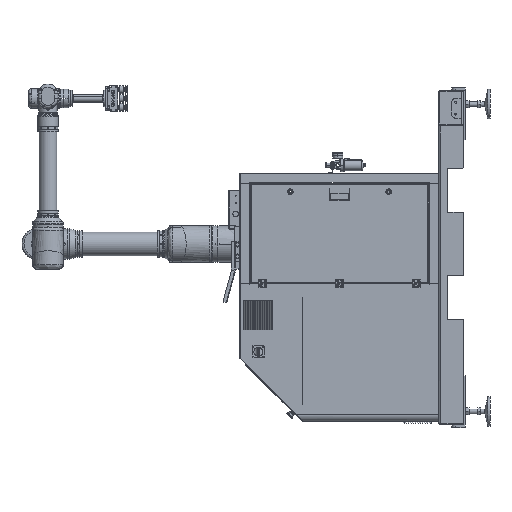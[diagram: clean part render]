
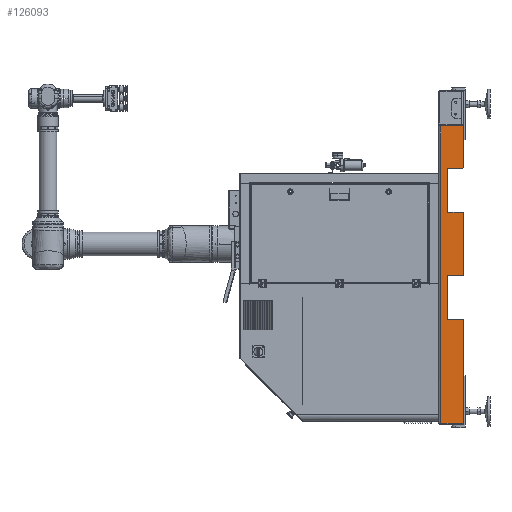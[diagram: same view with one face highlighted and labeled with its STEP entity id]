
A CAD part, left-side view. The second image highlights one B-rep face of the part: STEP entity #126093.
In plain terms, the highlighted planar face has unit normal (-1, 0, 0).
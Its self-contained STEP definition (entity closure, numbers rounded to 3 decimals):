
#3478 = CARTESIAN_POINT ( 'NONE',  ( -400., -120., 0.5 ) ) ;
#3660 = DIRECTION ( 'NONE',  ( 0., -1., 0. ) ) ;
#6713 = ORIENTED_EDGE ( 'NONE', *, *, #145214, .T. ) ;
#7914 = ORIENTED_EDGE ( 'NONE', *, *, #19589, .F. ) ;
#9323 = DIRECTION ( 'NONE',  ( 1., 0., 0. ) ) ;
#9501 = CARTESIAN_POINT ( 'NONE',  ( -400., -125., 760. ) ) ;
#11552 = DIRECTION ( 'NONE',  ( 0., 0., -1. ) ) ;
#13911 = VERTEX_POINT ( 'NONE', #54855 ) ;
#17145 = VERTEX_POINT ( 'NONE', #94762 ) ;
#17235 = CARTESIAN_POINT ( 'NONE',  ( -400., -125., 760. ) ) ;
#19404 = DIRECTION ( 'NONE',  ( 0., 1., 0. ) ) ;
#19589 = EDGE_CURVE ( 'NONE', #35979, #133409, #81288, .T. ) ;
#20459 = VERTEX_POINT ( 'NONE', #128305 ) ;
#20989 = CARTESIAN_POINT ( 'NONE',  ( -400., -10., -754.929 ) ) ;
#22046 = EDGE_CURVE ( 'NONE', #152161, #91561, #143533, .T. ) ;
#22624 = DIRECTION ( 'NONE',  ( 0., -1., 0. ) ) ;
#23389 = EDGE_CURVE ( 'NONE', #133409, #115869, #69696, .T. ) ;
#24079 = ORIENTED_EDGE ( 'NONE', *, *, #55400, .T. ) ;
#25199 = DIRECTION ( 'NONE',  ( -1., 0., 0. ) ) ;
#25457 = CARTESIAN_POINT ( 'NONE',  ( -400., -125., 550.5 ) ) ;
#26300 = LINE ( 'NONE', #110283, #87203 ) ;
#30006 = EDGE_CURVE ( 'NONE', #100650, #135013, #26300, .T. ) ;
#31863 = CARTESIAN_POINT ( 'NONE',  ( -400., 0., 0.5 ) ) ;
#31930 = CARTESIAN_POINT ( 'NONE',  ( -400., -125., 760. ) ) ;
#32616 = LINE ( 'NONE', #90218, #101745 ) ;
#35692 = ORIENTED_EDGE ( 'NONE', *, *, #97825, .F. ) ;
#35815 = CARTESIAN_POINT ( 'NONE',  ( -400., -120., 320.5 ) ) ;
#35979 = VERTEX_POINT ( 'NONE', #129980 ) ;
#36431 = EDGE_CURVE ( 'NONE', #20459, #122509, #67643, .T. ) ;
#36922 = CARTESIAN_POINT ( 'NONE',  ( -400., -120., 315.5 ) ) ;
#37145 = VECTOR ( 'NONE', #88369, 1000. ) ;
#39373 = ORIENTED_EDGE ( 'NONE', *, *, #95042, .F. ) ;
#40446 = CIRCLE ( 'NONE', #56858, 5. ) ;
#41323 = CARTESIAN_POINT ( 'NONE',  ( -400., -45., 545.5 ) ) ;
#43930 = DIRECTION ( 'NONE',  ( 0., -1., 0. ) ) ;
#44425 = DIRECTION ( 'NONE',  ( 0., 0., -1. ) ) ;
#45413 = EDGE_LOOP ( 'NONE', ( #39373, #24079, #35692, #81286, #161678, #62385, #150514, #92129, #109342, #86864, #63992, #167103, #79668, #7914, #6713, #53533 ) ) ;
#48039 = VECTOR ( 'NONE', #3660, 1000. ) ;
#48492 = VERTEX_POINT ( 'NONE', #112538 ) ;
#49277 = LINE ( 'NONE', #31930, #130549 ) ;
#53533 = ORIENTED_EDGE ( 'NONE', *, *, #22046, .T. ) ;
#53962 = VECTOR ( 'NONE', #72153, 1000. ) ;
#54855 = CARTESIAN_POINT ( 'NONE',  ( -400., -125., 315.5 ) ) ;
#54860 = CIRCLE ( 'NONE', #128474, 5. ) ;
#55400 = EDGE_CURVE ( 'NONE', #137242, #127295, #61934, .T. ) ;
#56858 = AXIS2_PLACEMENT_3D ( 'NONE', #63754, #25199, #130703 ) ;
#56872 = CARTESIAN_POINT ( 'NONE',  ( -400., -45., 0.5 ) ) ;
#59278 = LINE ( 'NONE', #17235, #71532 ) ;
#61896 = DIRECTION ( 'NONE',  ( -1., 0., 0. ) ) ;
#61934 = CIRCLE ( 'NONE', #109318, 5. ) ;
#62385 = ORIENTED_EDGE ( 'NONE', *, *, #86433, .T. ) ;
#63320 = VECTOR ( 'NONE', #22624, 1000. ) ;
#63639 = AXIS2_PLACEMENT_3D ( 'NONE', #153546, #9323, #11552 ) ;
#63754 = CARTESIAN_POINT ( 'NONE',  ( -400., -120., 550.5 ) ) ;
#63992 = ORIENTED_EDGE ( 'NONE', *, *, #36431, .F. ) ;
#64657 = DIRECTION ( 'NONE',  ( 0., 0., 1. ) ) ;
#66428 = LINE ( 'NONE', #74486, #100967 ) ;
#67320 = CARTESIAN_POINT ( 'NONE',  ( -400., -120., -224.5 ) ) ;
#67643 = LINE ( 'NONE', #68433, #155024 ) ;
#67799 = VERTEX_POINT ( 'NONE', #56872 ) ;
#68433 = CARTESIAN_POINT ( 'NONE',  ( -400., 0., 545.5 ) ) ;
#69696 = LINE ( 'NONE', #9501, #37145 ) ;
#71532 = VECTOR ( 'NONE', #84145, 1000. ) ;
#71827 = EDGE_CURVE ( 'NONE', #20459, #115869, #40446, .T. ) ;
#72153 = DIRECTION ( 'NONE',  ( 0., 0., -1. ) ) ;
#74486 = CARTESIAN_POINT ( 'NONE',  ( -400., -10., 760. ) ) ;
#76433 = DIRECTION ( 'NONE',  ( -1., 0., 0. ) ) ;
#79668 = ORIENTED_EDGE ( 'NONE', *, *, #23389, .F. ) ;
#81286 = ORIENTED_EDGE ( 'NONE', *, *, #95961, .T. ) ;
#81288 = LINE ( 'NONE', #99780, #63320 ) ;
#81388 = CIRCLE ( 'NONE', #162208, 5. ) ;
#83040 = CARTESIAN_POINT ( 'NONE',  ( -400., 0., -224.5 ) ) ;
#83705 = VECTOR ( 'NONE', #19404, 1000. ) ;
#84145 = DIRECTION ( 'NONE',  ( 0., 0., -1. ) ) ;
#86433 = EDGE_CURVE ( 'NONE', #95512, #48492, #81388, .T. ) ;
#86864 = ORIENTED_EDGE ( 'NONE', *, *, #130154, .F. ) ;
#87203 = VECTOR ( 'NONE', #43930, 1000. ) ;
#88338 = FACE_OUTER_BOUND ( 'NONE', #45413, .T. ) ;
#88353 = CARTESIAN_POINT ( 'NONE',  ( -400., -120., -229.5 ) ) ;
#88369 = DIRECTION ( 'NONE',  ( 0., 0., -1. ) ) ;
#88896 = VECTOR ( 'NONE', #150112, 1000. ) ;
#89317 = PLANE ( 'NONE',  #63639 ) ;
#90218 = CARTESIAN_POINT ( 'NONE',  ( -400., -45., 760. ) ) ;
#91561 = VERTEX_POINT ( 'NONE', #104761 ) ;
#92129 = ORIENTED_EDGE ( 'NONE', *, *, #161645, .T. ) ;
#93111 = CARTESIAN_POINT ( 'NONE',  ( -400., -125., 760. ) ) ;
#94762 = CARTESIAN_POINT ( 'NONE',  ( -400., -45., -224.5 ) ) ;
#95042 = EDGE_CURVE ( 'NONE', #137242, #91561, #49277, .T. ) ;
#95512 = VERTEX_POINT ( 'NONE', #3478 ) ;
#95961 = EDGE_CURVE ( 'NONE', #17145, #67799, #32616, .T. ) ;
#96750 = CARTESIAN_POINT ( 'NONE',  ( -400., 1514.344, -754.929 ) ) ;
#97825 = EDGE_CURVE ( 'NONE', #17145, #127295, #158020, .T. ) ;
#98265 = CARTESIAN_POINT ( 'NONE',  ( -400., -45., 760. ) ) ;
#99780 = CARTESIAN_POINT ( 'NONE',  ( -400., 0., 760. ) ) ;
#100650 = VERTEX_POINT ( 'NONE', #159811 ) ;
#100967 = VECTOR ( 'NONE', #113595, 1000. ) ;
#101745 = VECTOR ( 'NONE', #64657, 1000. ) ;
#104761 = CARTESIAN_POINT ( 'NONE',  ( -400., -125., -754.929 ) ) ;
#106089 = LINE ( 'NONE', #31863, #83705 ) ;
#109318 = AXIS2_PLACEMENT_3D ( 'NONE', #88353, #76433, #167274 ) ;
#109342 = ORIENTED_EDGE ( 'NONE', *, *, #30006, .F. ) ;
#110283 = CARTESIAN_POINT ( 'NONE',  ( -400., 0., 320.5 ) ) ;
#112538 = CARTESIAN_POINT ( 'NONE',  ( -400., -125., 5.5 ) ) ;
#113595 = DIRECTION ( 'NONE',  ( 0., 0., -1. ) ) ;
#115869 = VERTEX_POINT ( 'NONE', #25457 ) ;
#122509 = VERTEX_POINT ( 'NONE', #41323 ) ;
#124395 = CARTESIAN_POINT ( 'NONE',  ( -400., -120., 5.5 ) ) ;
#126093 = ADVANCED_FACE ( 'NONE', ( #88338 ), #89317, .F. ) ;
#127295 = VERTEX_POINT ( 'NONE', #67320 ) ;
#128305 = CARTESIAN_POINT ( 'NONE',  ( -400., -120., 545.5 ) ) ;
#128474 = AXIS2_PLACEMENT_3D ( 'NONE', #36922, #61896, #166430 ) ;
#129980 = CARTESIAN_POINT ( 'NONE',  ( -400., -10., 760. ) ) ;
#130154 = EDGE_CURVE ( 'NONE', #122509, #100650, #149506, .T. ) ;
#130549 = VECTOR ( 'NONE', #44425, 1000. ) ;
#130703 = DIRECTION ( 'NONE',  ( 0., 0., -1. ) ) ;
#132035 = DIRECTION ( 'NONE',  ( 0., 1., 0. ) ) ;
#133409 = VERTEX_POINT ( 'NONE', #93111 ) ;
#135013 = VERTEX_POINT ( 'NONE', #35815 ) ;
#137242 = VERTEX_POINT ( 'NONE', #156560 ) ;
#139159 = DIRECTION ( 'NONE',  ( 0., 0., -1. ) ) ;
#139752 = DIRECTION ( 'NONE',  ( -1., 0., 0. ) ) ;
#142169 = EDGE_CURVE ( 'NONE', #13911, #48492, #59278, .T. ) ;
#143533 = LINE ( 'NONE', #96750, #48039 ) ;
#145214 = EDGE_CURVE ( 'NONE', #35979, #152161, #66428, .T. ) ;
#149506 = LINE ( 'NONE', #98265, #53962 ) ;
#150112 = DIRECTION ( 'NONE',  ( 0., -1., 0. ) ) ;
#150514 = ORIENTED_EDGE ( 'NONE', *, *, #142169, .F. ) ;
#152161 = VERTEX_POINT ( 'NONE', #20989 ) ;
#153546 = CARTESIAN_POINT ( 'NONE',  ( -400., 0., 760. ) ) ;
#155024 = VECTOR ( 'NONE', #132035, 1000. ) ;
#156560 = CARTESIAN_POINT ( 'NONE',  ( -400., -125., -229.5 ) ) ;
#158020 = LINE ( 'NONE', #83040, #88896 ) ;
#159811 = CARTESIAN_POINT ( 'NONE',  ( -400., -45., 320.5 ) ) ;
#161645 = EDGE_CURVE ( 'NONE', #13911, #135013, #54860, .T. ) ;
#161678 = ORIENTED_EDGE ( 'NONE', *, *, #166878, .F. ) ;
#162208 = AXIS2_PLACEMENT_3D ( 'NONE', #124395, #139752, #139159 ) ;
#166430 = DIRECTION ( 'NONE',  ( 0., 0., -1. ) ) ;
#166878 = EDGE_CURVE ( 'NONE', #95512, #67799, #106089, .T. ) ;
#167103 = ORIENTED_EDGE ( 'NONE', *, *, #71827, .T. ) ;
#167274 = DIRECTION ( 'NONE',  ( 0., 0., -1. ) ) ;
